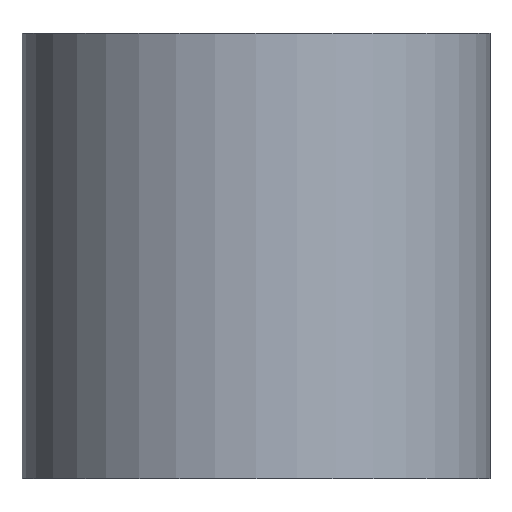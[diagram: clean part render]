
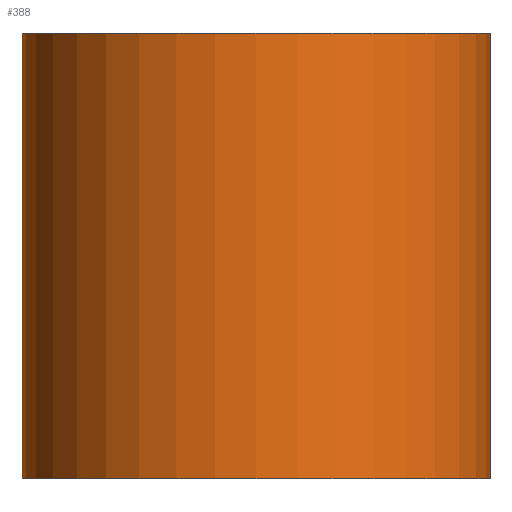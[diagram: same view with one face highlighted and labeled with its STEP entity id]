
A CAD part, front view. The second image highlights one B-rep face of the part: STEP entity #388.
In plain terms, the highlighted cylindrical face has radius 10.5 mm (diameter 21 mm), a full revolution.
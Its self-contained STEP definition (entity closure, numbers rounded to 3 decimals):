
#278=CARTESIAN_POINT('',(0.0,0.0,0.0));
#279=DIRECTION('',(0.0,0.0,1.0));
#280=DIRECTION('',(-1.0,0.0,0.0));
#281=AXIS2_PLACEMENT_3D('',#278,#279,#280);
#282=CYLINDRICAL_SURFACE('',#281,10.5);
#283=CARTESIAN_POINT('',(10.5,0.,10.0));
#284=VERTEX_POINT('',#283);
#285=CARTESIAN_POINT('',(0.0,0.0,10.0));
#286=DIRECTION('',(0.0,0.0,-1.0));
#287=DIRECTION('',(-1.0,0.0,0.0));
#288=AXIS2_PLACEMENT_3D('',#285,#286,#287);
#289=CIRCLE('',#288,10.5);
#290=EDGE_CURVE('',#284,#284,#289,.T.);
#291=ORIENTED_EDGE('',*,*,#290,.T.);
#292=EDGE_LOOP('',(#291));
#293=FACE_OUTER_BOUND('',#292,.T.);
#294=CARTESIAN_POINT('',(10.5,0.,-10.0));
#295=VERTEX_POINT('',#294);
#296=CARTESIAN_POINT('',(0.0,0.0,-10.0));
#297=DIRECTION('',(0.0,0.0,1.0));
#298=DIRECTION('',(-1.0,0.0,0.0));
#299=AXIS2_PLACEMENT_3D('',#296,#297,#298);
#300=CIRCLE('',#299,10.5);
#301=EDGE_CURVE('',#295,#295,#300,.T.);
#302=ORIENTED_EDGE('',*,*,#301,.T.);
#303=EDGE_LOOP('',(#302));
#304=FACE_BOUND('',#303,.T.);
#305=CARTESIAN_POINT('',(-6.,8.617,0.0));
#306=VERTEX_POINT('',#305);
#307=CARTESIAN_POINT('',(-6.,8.617,0.));
#308=CARTESIAN_POINT('',(-6.,8.617,0.594));
#309=CARTESIAN_POINT('',(-5.909,8.682,1.209));
#310=CARTESIAN_POINT('',(-5.726,8.801,1.793));
#311=CARTESIAN_POINT('',(-5.512,8.941,2.477));
#312=CARTESIAN_POINT('',(-5.172,9.15,3.119));
#313=CARTESIAN_POINT('',(-4.751,9.364,3.665));
#314=CARTESIAN_POINT('',(-4.592,9.445,3.871));
#315=CARTESIAN_POINT('',(-4.421,9.526,4.064));
#316=CARTESIAN_POINT('',(-4.244,9.604,4.241));
#317=CARTESIAN_POINT('',(-4.088,9.673,4.398));
#318=CARTESIAN_POINT('',(-3.919,9.743,4.549));
#319=CARTESIAN_POINT('',(-3.74,9.812,4.692));
#320=CARTESIAN_POINT('',(-3.225,10.007,5.102));
#321=CARTESIAN_POINT('',(-2.619,10.19,5.442));
#322=CARTESIAN_POINT('',(-1.969,10.314,5.668));
#323=CARTESIAN_POINT('',(-1.479,10.407,5.838));
#324=CARTESIAN_POINT('',(-0.964,10.468,5.944));
#325=CARTESIAN_POINT('',(-0.457,10.49,5.983));
#326=CARTESIAN_POINT('',(-0.104,10.505,6.01));
#327=CARTESIAN_POINT('',(0.243,10.503,6.006));
#328=CARTESIAN_POINT('',(0.597,10.483,5.97));
#329=CARTESIAN_POINT('',(1.244,10.446,5.906));
#330=CARTESIAN_POINT('',(1.896,10.346,5.73));
#331=CARTESIAN_POINT('',(2.493,10.2,5.457));
#332=CARTESIAN_POINT('',(3.079,10.057,5.19));
#333=CARTESIAN_POINT('',(3.613,9.871,4.828));
#334=CARTESIAN_POINT('',(4.058,9.684,4.419));
#335=CARTESIAN_POINT('',(4.234,9.61,4.258));
#336=CARTESIAN_POINT('',(4.397,9.537,4.09));
#337=CARTESIAN_POINT('',(4.554,9.461,3.907));
#338=CARTESIAN_POINT('',(4.992,9.25,3.396));
#339=CARTESIAN_POINT('',(5.361,9.033,2.786));
#340=CARTESIAN_POINT('',(5.611,8.875,2.124));
#341=CARTESIAN_POINT('',(5.808,8.75,1.604));
#342=CARTESIAN_POINT('',(5.933,8.664,1.052));
#343=CARTESIAN_POINT('',(5.979,8.632,0.505));
#344=CARTESIAN_POINT('',(6.011,8.609,0.124));
#345=CARTESIAN_POINT('',(6.007,8.612,-0.25));
#346=CARTESIAN_POINT('',(5.967,8.64,-0.631));
#347=CARTESIAN_POINT('',(5.9,8.686,-1.262));
#348=CARTESIAN_POINT('',(5.729,8.805,-1.894));
#349=CARTESIAN_POINT('',(5.466,8.965,-2.475));
#350=CARTESIAN_POINT('',(5.234,9.106,-2.986));
#351=CARTESIAN_POINT('',(4.932,9.278,-3.459));
#352=CARTESIAN_POINT('',(4.585,9.446,-3.87));
#353=CARTESIAN_POINT('',(4.371,9.55,-4.124));
#354=CARTESIAN_POINT('',(4.145,9.651,-4.351));
#355=CARTESIAN_POINT('',(3.892,9.752,-4.567));
#356=CARTESIAN_POINT('',(3.413,9.943,-4.975));
#357=CARTESIAN_POINT('',(2.844,10.127,-5.325));
#358=CARTESIAN_POINT('',(2.228,10.261,-5.571));
#359=CARTESIAN_POINT('',(1.669,10.382,-5.795));
#360=CARTESIAN_POINT('',(1.069,10.462,-5.934));
#361=CARTESIAN_POINT('',(0.478,10.489,-5.981));
#362=CARTESIAN_POINT('',(0.122,10.505,-6.009));
#363=CARTESIAN_POINT('',(-0.228,10.504,-6.006));
#364=CARTESIAN_POINT('',(-0.585,10.484,-5.971));
#365=CARTESIAN_POINT('',(-1.214,10.449,-5.91));
#366=CARTESIAN_POINT('',(-1.849,10.353,-5.744));
#367=CARTESIAN_POINT('',(-2.433,10.214,-5.484));
#368=CARTESIAN_POINT('',(-3.079,10.06,-5.198));
#369=CARTESIAN_POINT('',(-3.663,9.854,-4.797));
#370=CARTESIAN_POINT('',(-4.14,9.649,-4.343));
#371=CARTESIAN_POINT('',(-4.288,9.586,-4.201));
#372=CARTESIAN_POINT('',(-4.428,9.522,-4.054));
#373=CARTESIAN_POINT('',(-4.564,9.456,-3.895));
#374=CARTESIAN_POINT('',(-5.005,9.243,-3.378));
#375=CARTESIAN_POINT('',(-5.376,9.024,-2.758));
#376=CARTESIAN_POINT('',(-5.625,8.866,-2.088));
#377=CARTESIAN_POINT('',(-5.835,8.733,-1.523));
#378=CARTESIAN_POINT('',(-5.958,8.646,-0.922));
#379=CARTESIAN_POINT('',(-5.991,8.623,-0.33));
#380=CARTESIAN_POINT('',(-5.997,8.619,-0.22));
#381=CARTESIAN_POINT('',(-6.,8.617,-0.11));
#382=CARTESIAN_POINT('',(-6.,8.617,0.));
#383=B_SPLINE_CURVE_WITH_KNOTS('',3,(#307,#308,#309,#310,#311,#312,#313,#314,#315,#316,#317,#318,#319,#320,#321,#322,#323,#324,#325,#326,#327,#328,#329,#330,#331,#332,#333,#334,#335,#336,#337,#338,#339,#340,#341,#342,#343,#344,#345,#346,#347,#348,#349,#350,#351,#352,#353,#354,#355,#356,#357,#358,#359,#360,#361,#362,#363,#364,#365,#366,#367,#368,#369,#370,#371,#372,#373,#374,#375,#376,#377,#378,#379,#380,#381,#382),.UNSPECIFIED.,.T.,.U.,(4,3,3,3,3,3,3,3,3,3,3,3,3,3,3,3,3,3,3,3,3,3,3,3,3,4),(0.0,0.178,0.387,0.466,0.535,0.734,0.884,0.989,1.179,1.366,1.44,1.647,1.809,1.921,2.108,2.272,2.374,2.566,2.741,2.846,3.032,3.237,3.301,3.509,3.685,3.718),.UNSPECIFIED.);
#384=EDGE_CURVE('',#306,#306,#383,.T.);
#385=ORIENTED_EDGE('',*,*,#384,.F.);
#386=EDGE_LOOP('',(#385));
#387=FACE_BOUND('',#386,.T.);
#388=ADVANCED_FACE('',(#293,#304,#387),#282,.T.);
